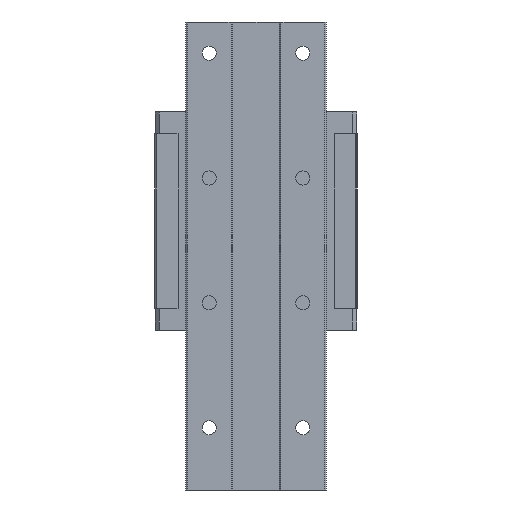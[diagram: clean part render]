
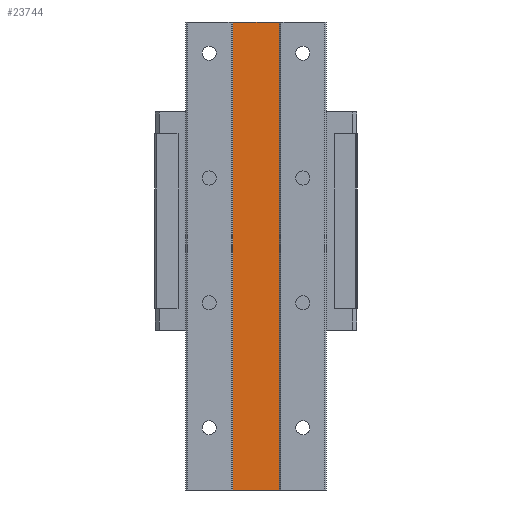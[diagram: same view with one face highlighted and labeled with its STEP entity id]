
A CAD part, front view. The second image highlights one B-rep face of the part: STEP entity #23744.
In plain terms, the highlighted planar face has unit normal (0, -1, 0).
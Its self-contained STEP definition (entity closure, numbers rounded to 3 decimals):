
#23018=CARTESIAN_POINT('',(-15.,1.,0.0));
#23019=VERTEX_POINT('',#23018);
#23026=CARTESIAN_POINT('',(15.0,1.,0.0));
#23027=VERTEX_POINT('',#23026);
#23028=CARTESIAN_POINT('',(-15.,1.,0.0));
#23029=DIRECTION('',(1.0,0.0,0.0));
#23030=VECTOR('',#23029,30.);
#23031=LINE('',#23028,#23030);
#23032=EDGE_CURVE('',#23019,#23027,#23031,.T.);
#23217=CARTESIAN_POINT('',(15.,1.,-300.));
#23218=VERTEX_POINT('',#23217);
#23225=CARTESIAN_POINT('',(-15.0,1.,-300.));
#23226=VERTEX_POINT('',#23225);
#23227=CARTESIAN_POINT('',(-15.0,1.,-300.));
#23228=DIRECTION('',(1.0,0.0,0.0));
#23229=VECTOR('',#23228,30.);
#23230=LINE('',#23227,#23229);
#23231=EDGE_CURVE('',#23226,#23218,#23230,.T.);
#23717=CARTESIAN_POINT('',(-15.,1.,0.0));
#23718=DIRECTION('',(0.0,0.0,-1.0));
#23719=VECTOR('',#23718,300.);
#23720=LINE('',#23717,#23719);
#23721=EDGE_CURVE('',#23019,#23226,#23720,.T.);
#23728=CARTESIAN_POINT('',(0.0,1.,0.0));
#23729=DIRECTION('',(0.0,-1.0,0.0));
#23730=DIRECTION('',(0.0,0.0,-1.0));
#23731=AXIS2_PLACEMENT_3D('',#23728,#23729,#23730);
#23732=PLANE('',#23731);
#23733=ORIENTED_EDGE('',*,*,#23231,.T.);
#23734=CARTESIAN_POINT('',(15.0,1.,0.0));
#23735=DIRECTION('',(0.0,0.0,-1.0));
#23736=VECTOR('',#23735,300.);
#23737=LINE('',#23734,#23736);
#23738=EDGE_CURVE('',#23027,#23218,#23737,.T.);
#23739=ORIENTED_EDGE('',*,*,#23738,.F.);
#23740=ORIENTED_EDGE('',*,*,#23032,.F.);
#23741=ORIENTED_EDGE('',*,*,#23721,.T.);
#23742=EDGE_LOOP('',(#23733,#23739,#23740,#23741));
#23743=FACE_OUTER_BOUND('',#23742,.T.);
#23744=ADVANCED_FACE('',(#23743),#23732,.T.);
